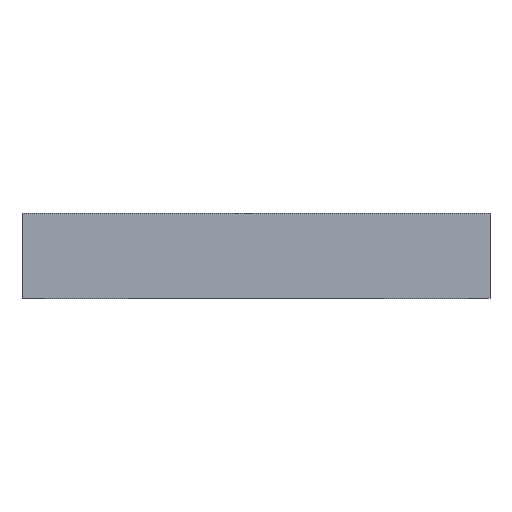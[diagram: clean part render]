
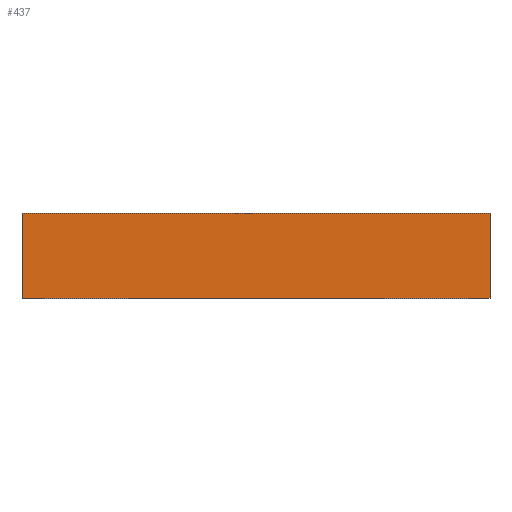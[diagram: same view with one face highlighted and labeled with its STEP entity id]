
A CAD part, top view. The second image highlights one B-rep face of the part: STEP entity #437.
In plain terms, the highlighted planar face has unit normal (0, 0, 1).
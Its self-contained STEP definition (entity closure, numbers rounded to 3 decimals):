
#24 = VERTEX_POINT('',#25);
#25 = CARTESIAN_POINT('',(-50.,0.,1000.));
#32 = PLANE('',#33);
#33 = AXIS2_PLACEMENT_3D('',#34,#35,#36);
#34 = CARTESIAN_POINT('',(-50.,0.,800.));
#35 = DIRECTION('',(1.,0.,0.));
#36 = DIRECTION('',(0.,0.,1.));
#44 = PLANE('',#45);
#45 = AXIS2_PLACEMENT_3D('',#46,#47,#48);
#46 = CARTESIAN_POINT('',(-50.,0.,800.));
#47 = DIRECTION('',(0.,1.,0.));
#48 = DIRECTION('',(0.,0.,1.));
#85 = VERTEX_POINT('',#86);
#86 = CARTESIAN_POINT('',(-50.,200.,1000.));
#100 = PLANE('',#101);
#101 = AXIS2_PLACEMENT_3D('',#102,#103,#104);
#102 = CARTESIAN_POINT('',(-50.,200.,800.));
#103 = DIRECTION('',(0.,1.,0.));
#104 = DIRECTION('',(0.,0.,1.));
#112 = EDGE_CURVE('',#24,#85,#113,.T.);
#113 = SURFACE_CURVE('',#114,(#118,#125),.PCURVE_S1.);
#114 = LINE('',#115,#116);
#115 = CARTESIAN_POINT('',(-50.,0.,1000.));
#116 = VECTOR('',#117,1.);
#117 = DIRECTION('',(0.,1.,0.));
#118 = PCURVE('',#32,#119);
#119 = DEFINITIONAL_REPRESENTATION('',(#120),#124);
#120 = LINE('',#121,#122);
#121 = CARTESIAN_POINT('',(200.,0.));
#122 = VECTOR('',#123,1.);
#123 = DIRECTION('',(0.,-1.));
#124 = ( GEOMETRIC_REPRESENTATION_CONTEXT(2) 
PARAMETRIC_REPRESENTATION_CONTEXT() REPRESENTATION_CONTEXT('2D SPACE',''
  ) );
#125 = PCURVE('',#126,#131);
#126 = PLANE('',#127);
#127 = AXIS2_PLACEMENT_3D('',#128,#129,#130);
#128 = CARTESIAN_POINT('',(-50.,0.,1000.));
#129 = DIRECTION('',(0.,0.,1.));
#130 = DIRECTION('',(1.,0.,0.));
#131 = DEFINITIONAL_REPRESENTATION('',(#132),#136);
#132 = LINE('',#133,#134);
#133 = CARTESIAN_POINT('',(0.,0.));
#134 = VECTOR('',#135,1.);
#135 = DIRECTION('',(0.,1.));
#136 = ( GEOMETRIC_REPRESENTATION_CONTEXT(2) 
PARAMETRIC_REPRESENTATION_CONTEXT() REPRESENTATION_CONTEXT('2D SPACE',''
  ) );
#165 = EDGE_CURVE('',#166,#24,#168,.T.);
#166 = VERTEX_POINT('',#167);
#167 = CARTESIAN_POINT('',(1050.,0.,1000.));
#168 = SURFACE_CURVE('',#169,(#173,#180),.PCURVE_S1.);
#169 = LINE('',#170,#171);
#170 = CARTESIAN_POINT('',(1050.,0.,1000.));
#171 = VECTOR('',#172,1.);
#172 = DIRECTION('',(-1.,0.,0.));
#173 = PCURVE('',#44,#174);
#174 = DEFINITIONAL_REPRESENTATION('',(#175),#179);
#175 = LINE('',#176,#177);
#176 = CARTESIAN_POINT('',(200.,1100.));
#177 = VECTOR('',#178,1.);
#178 = DIRECTION('',(0.,-1.));
#179 = ( GEOMETRIC_REPRESENTATION_CONTEXT(2) 
PARAMETRIC_REPRESENTATION_CONTEXT() REPRESENTATION_CONTEXT('2D SPACE',''
  ) );
#180 = PCURVE('',#126,#181);
#181 = DEFINITIONAL_REPRESENTATION('',(#182),#186);
#182 = LINE('',#183,#184);
#183 = CARTESIAN_POINT('',(1100.,0.));
#184 = VECTOR('',#185,1.);
#185 = DIRECTION('',(-1.,0.));
#186 = ( GEOMETRIC_REPRESENTATION_CONTEXT(2) 
PARAMETRIC_REPRESENTATION_CONTEXT() REPRESENTATION_CONTEXT('2D SPACE',''
  ) );
#204 = PLANE('',#205);
#205 = AXIS2_PLACEMENT_3D('',#206,#207,#208);
#206 = CARTESIAN_POINT('',(1050.,0.,800.));
#207 = DIRECTION('',(1.,0.,0.));
#208 = DIRECTION('',(0.,0.,1.));
#437 = ADVANCED_FACE('',(#438),#126,.T.);
#438 = FACE_BOUND('',#439,.T.);
#439 = EDGE_LOOP('',(#440,#441,#442,#465));
#440 = ORIENTED_EDGE('',*,*,#112,.F.);
#441 = ORIENTED_EDGE('',*,*,#165,.F.);
#442 = ORIENTED_EDGE('',*,*,#443,.T.);
#443 = EDGE_CURVE('',#166,#444,#446,.T.);
#444 = VERTEX_POINT('',#445);
#445 = CARTESIAN_POINT('',(1050.,200.,1000.));
#446 = SURFACE_CURVE('',#447,(#451,#458),.PCURVE_S1.);
#447 = LINE('',#448,#449);
#448 = CARTESIAN_POINT('',(1050.,0.,1000.));
#449 = VECTOR('',#450,1.);
#450 = DIRECTION('',(0.,1.,0.));
#451 = PCURVE('',#126,#452);
#452 = DEFINITIONAL_REPRESENTATION('',(#453),#457);
#453 = LINE('',#454,#455);
#454 = CARTESIAN_POINT('',(1100.,0.));
#455 = VECTOR('',#456,1.);
#456 = DIRECTION('',(0.,1.));
#457 = ( GEOMETRIC_REPRESENTATION_CONTEXT(2) 
PARAMETRIC_REPRESENTATION_CONTEXT() REPRESENTATION_CONTEXT('2D SPACE',''
  ) );
#458 = PCURVE('',#204,#459);
#459 = DEFINITIONAL_REPRESENTATION('',(#460),#464);
#460 = LINE('',#461,#462);
#461 = CARTESIAN_POINT('',(200.,0.));
#462 = VECTOR('',#463,1.);
#463 = DIRECTION('',(0.,-1.));
#464 = ( GEOMETRIC_REPRESENTATION_CONTEXT(2) 
PARAMETRIC_REPRESENTATION_CONTEXT() REPRESENTATION_CONTEXT('2D SPACE',''
  ) );
#465 = ORIENTED_EDGE('',*,*,#466,.T.);
#466 = EDGE_CURVE('',#444,#85,#467,.T.);
#467 = SURFACE_CURVE('',#468,(#472,#479),.PCURVE_S1.);
#468 = LINE('',#469,#470);
#469 = CARTESIAN_POINT('',(1050.,200.,1000.));
#470 = VECTOR('',#471,1.);
#471 = DIRECTION('',(-1.,0.,0.));
#472 = PCURVE('',#126,#473);
#473 = DEFINITIONAL_REPRESENTATION('',(#474),#478);
#474 = LINE('',#475,#476);
#475 = CARTESIAN_POINT('',(1100.,200.));
#476 = VECTOR('',#477,1.);
#477 = DIRECTION('',(-1.,0.));
#478 = ( GEOMETRIC_REPRESENTATION_CONTEXT(2) 
PARAMETRIC_REPRESENTATION_CONTEXT() REPRESENTATION_CONTEXT('2D SPACE',''
  ) );
#479 = PCURVE('',#100,#480);
#480 = DEFINITIONAL_REPRESENTATION('',(#481),#485);
#481 = LINE('',#482,#483);
#482 = CARTESIAN_POINT('',(200.,1100.));
#483 = VECTOR('',#484,1.);
#484 = DIRECTION('',(0.,-1.));
#485 = ( GEOMETRIC_REPRESENTATION_CONTEXT(2) 
PARAMETRIC_REPRESENTATION_CONTEXT() REPRESENTATION_CONTEXT('2D SPACE',''
  ) );
